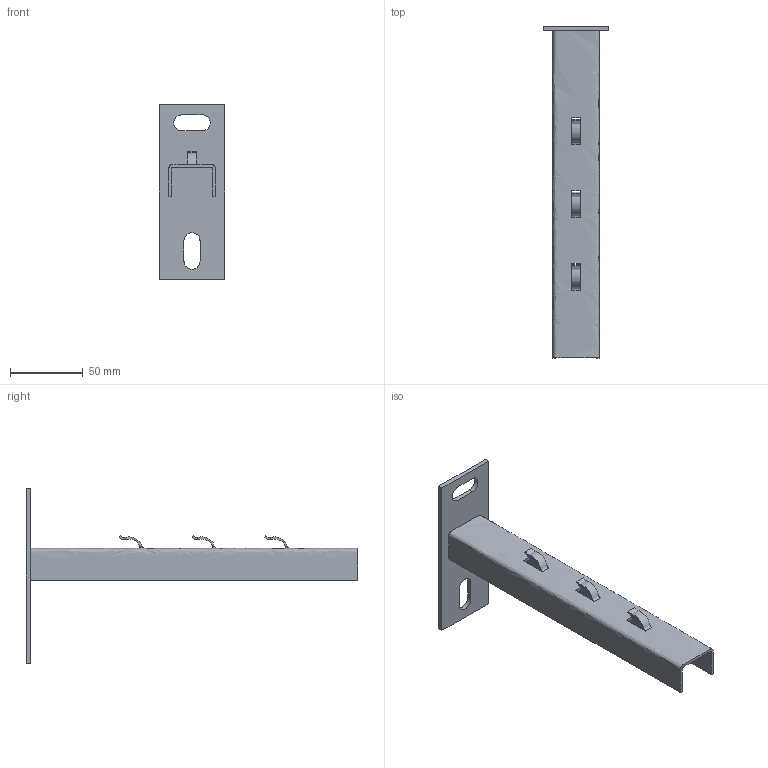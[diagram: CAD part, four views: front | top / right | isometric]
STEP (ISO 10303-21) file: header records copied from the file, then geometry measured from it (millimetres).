
FILE_DESCRIPTION(/* description */ (''),/* implementation_level */ '2;1');
FILE_NAME(/* name */ 'NPZM200',/* time_stamp */ '2013-11-22T10:24:20+01:00',/* author */ (''),/* organization */ (''),/* preprocessor_version */ 'ST-DEVELOPER v10',/* originating_system */ '',/* authorisation */ '');
FILE_SCHEMA (('AUTOMOTIVE_DESIGN_CC2'));
Length unit declared in the file: millimetre
Products named in the file (1): 1
Bounding box: 45 x 228 x 120 mm (x, y, z)
Volume: 44239 mm3; surface area: 45017.5 mm2
Topology: 5 solids, 5 shells, 70 faces, 192 edges, 132 vertices
Faces by surface type: bspline 60, plane 10
Entity records: 3419 total; most frequent: CARTESIAN_POINT 2283, ORIENTED_EDGE 360, EDGE_CURVE 180, VERTEX_POINT 120, B_SPLINE_CURVE_WITH_KNOTS 90, EDGE_LOOP 80, ADVANCED_FACE 70, FACE_OUTER_BOUND 70
